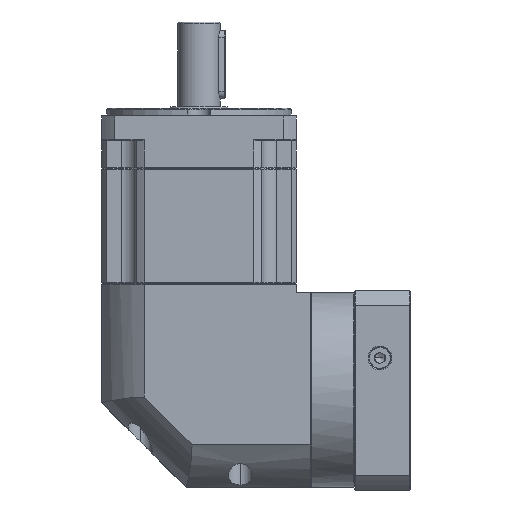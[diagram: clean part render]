
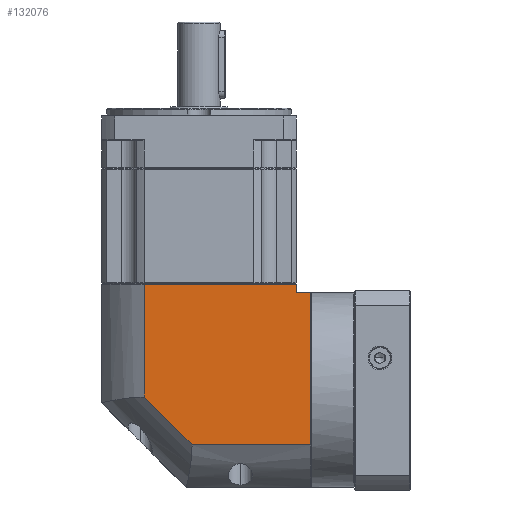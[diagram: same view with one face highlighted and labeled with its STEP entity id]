
A CAD part, left-side view. The second image highlights one B-rep face of the part: STEP entity #132076.
In plain terms, the highlighted planar face has unit normal (-1, 0, 0).
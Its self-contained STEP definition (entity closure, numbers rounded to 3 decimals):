
#6631 = VERTEX_POINT ( 'NONE', #160226 ) ;
#10018 = VECTOR ( 'NONE', #91705, 1000. ) ;
#13024 = DIRECTION ( 'NONE',  ( 0., 1., 0. ) ) ;
#15113 = EDGE_CURVE ( 'NONE', #86784, #150985, #97007, .T. ) ;
#15247 = VECTOR ( 'NONE', #124919, 1000. ) ;
#16163 = CARTESIAN_POINT ( 'NONE',  ( 25.145, -18.587, 237.9 ) ) ;
#17381 = CARTESIAN_POINT ( 'NONE',  ( 25.145, 96.413, 242.9 ) ) ;
#19741 = CARTESIAN_POINT ( 'NONE',  ( 25.145, 71.313, 249.4 ) ) ;
#20966 = CARTESIAN_POINT ( 'NONE',  ( 25.145, -18.587, 122.9 ) ) ;
#21352 = LINE ( 'NONE', #16163, #160013 ) ;
#28658 = DIRECTION ( 'NONE',  ( 0., 0.707, 0.707 ) ) ;
#29822 = EDGE_CURVE ( 'NONE', #6631, #155268, #116805, .T. ) ;
#33087 = EDGE_CURVE ( 'NONE', #172451, #46091, #163699, .T. ) ;
#42793 = CARTESIAN_POINT ( 'NONE',  ( 25.145, 71.313, 176.338 ) ) ;
#43180 = DIRECTION ( 'NONE',  ( 0., 0., 1. ) ) ;
#46091 = VERTEX_POINT ( 'NONE', #138885 ) ;
#50821 = EDGE_LOOP ( 'NONE', ( #135326, #64687, #169737, #125508, #164083, #75507, #98289 ) ) ;
#50994 = LINE ( 'NONE', #17381, #15247 ) ;
#52347 = VECTOR ( 'NONE', #43180, 1000. ) ;
#52834 = VERTEX_POINT ( 'NONE', #162429 ) ;
#61250 = VECTOR ( 'NONE', #129019, 1000. ) ;
#64687 = ORIENTED_EDGE ( 'NONE', *, *, #81965, .F. ) ;
#66096 = LINE ( 'NONE', #134983, #97631 ) ;
#75507 = ORIENTED_EDGE ( 'NONE', *, *, #15113, .T. ) ;
#81023 = VECTOR ( 'NONE', #131852, 1000. ) ;
#81965 = EDGE_CURVE ( 'NONE', #52834, #172451, #66096, .T. ) ;
#86784 = VERTEX_POINT ( 'NONE', #94045 ) ;
#88276 = EDGE_CURVE ( 'NONE', #155268, #52834, #112968, .T. ) ;
#91705 = DIRECTION ( 'NONE',  ( 0., 1., 0. ) ) ;
#92321 = PLANE ( 'NONE',  #143005 ) ;
#93480 = DIRECTION ( 'NONE',  ( 1., 0., 0. ) ) ;
#94045 = CARTESIAN_POINT ( 'NONE',  ( 25.145, -18.587, 237.9 ) ) ;
#97007 = LINE ( 'NONE', #20966, #61250 ) ;
#97631 = VECTOR ( 'NONE', #28658, 1000. ) ;
#98289 = ORIENTED_EDGE ( 'NONE', *, *, #167214, .F. ) ;
#112968 = LINE ( 'NONE', #172097, #10018 ) ;
#116805 = LINE ( 'NONE', #118351, #81023 ) ;
#118351 = CARTESIAN_POINT ( 'NONE',  ( 25.145, -26.987, 249.4 ) ) ;
#119033 = EDGE_CURVE ( 'NONE', #6631, #86784, #21352, .T. ) ;
#123688 = DIRECTION ( 'NONE',  ( 0., 1., 0. ) ) ;
#124919 = DIRECTION ( 'NONE',  ( 0., -1., 0. ) ) ;
#125508 = ORIENTED_EDGE ( 'NONE', *, *, #29822, .F. ) ;
#129019 = DIRECTION ( 'NONE',  ( 0., 0., 1. ) ) ;
#131852 = DIRECTION ( 'NONE',  ( 0., 0., -1. ) ) ;
#132076 = ADVANCED_FACE ( 'NONE', ( #146214 ), #92321, .F. ) ;
#134983 = CARTESIAN_POINT ( 'NONE',  ( 25.145, 42.975, 148. ) ) ;
#135326 = ORIENTED_EDGE ( 'NONE', *, *, #33087, .F. ) ;
#138885 = CARTESIAN_POINT ( 'NONE',  ( 25.145, 71.313, 242.9 ) ) ;
#143005 = AXIS2_PLACEMENT_3D ( 'NONE', #173835, #93480, #13024 ) ;
#146214 = FACE_OUTER_BOUND ( 'NONE', #50821, .T. ) ;
#148881 = CARTESIAN_POINT ( 'NONE',  ( 25.145, -18.587, 242.9 ) ) ;
#150985 = VERTEX_POINT ( 'NONE', #148881 ) ;
#155268 = VERTEX_POINT ( 'NONE', #162421 ) ;
#160013 = VECTOR ( 'NONE', #123688, 1000. ) ;
#160226 = CARTESIAN_POINT ( 'NONE',  ( 25.145, -26.987, 237.9 ) ) ;
#162421 = CARTESIAN_POINT ( 'NONE',  ( 25.145, -26.987, 148. ) ) ;
#162429 = CARTESIAN_POINT ( 'NONE',  ( 25.145, 42.975, 148. ) ) ;
#163699 = LINE ( 'NONE', #19741, #52347 ) ;
#164083 = ORIENTED_EDGE ( 'NONE', *, *, #119033, .T. ) ;
#167214 = EDGE_CURVE ( 'NONE', #46091, #150985, #50994, .T. ) ;
#169737 = ORIENTED_EDGE ( 'NONE', *, *, #88276, .F. ) ;
#172097 = CARTESIAN_POINT ( 'NONE',  ( 25.145, 96.413, 148. ) ) ;
#172451 = VERTEX_POINT ( 'NONE', #42793 ) ;
#173835 = CARTESIAN_POINT ( 'NONE',  ( 25.145, 96.413, 249.4 ) ) ;
